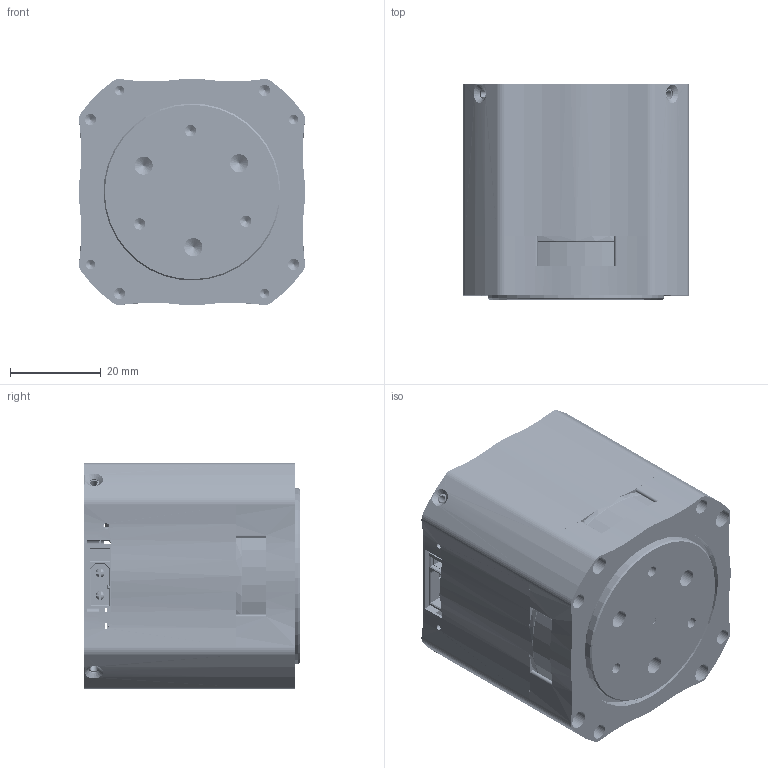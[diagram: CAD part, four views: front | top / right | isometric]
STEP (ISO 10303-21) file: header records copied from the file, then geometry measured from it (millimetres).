
FILE_DESCRIPTION (( 'STEP AP214' ), '1' );
FILE_NAME ('5047潠眢耀倰.STEP', '2025-04-08T09:38:22', ( '' ), ( '' ), 'SwSTEP 2.0', 'SolidWorks 2024', '' );
FILE_SCHEMA (( 'AUTOMOTIVE_DESIGN' ));
Length unit declared in the file: millimetre
Products named in the file (10): 3D_双编-5047（功率升级48）_V1.5.0918_2024-09-181.8; 5047-35-44-5橡胶密封型-6707 2rs1.8; 5047-0.3模二级1.8; 内齿5048A1.8; 5047电机盖11041.8; 5047-轴承座09101.8; 5047外壳02181.8; 5047-输出盘12301.8; 5047编码器销1.8; 5047简易模型
Assembly tree (9 placements, depth 3):
  5047简易模型
    5047外壳02181.8
    5047电机盖11041.8
    3D_双编-5047（功率升级48）_V1.5.0918_2024-09-181.8
    5047-0.3模二级1.8
      5047-轴承座09101.8
      内齿5048A1.8
      5047-35-44-5橡胶密封型-6707 2rs1.8
      5047-输出盘12301.8
    5047编码器销1.8
Bounding box: 49.9 x 47.4 x 49.9 mm (x, y, z)
Volume: 47238.5 mm3; surface area: 50209.5 mm2
Topology: 118 solids, 118 shells, 18555 faces, 49148 edges, 31556 vertices
Faces by surface type: plane 9796, bspline 5125, cylinder 2713, sphere 494, torus 294, cone 133
Entity records: 639130 total; most frequent: CARTESIAN_POINT 214548, ORIENTED_EDGE 97454, DIRECTION 69784, EDGE_CURVE 48727, VERTEX_POINT 31532, VECTOR 31200, LINE 31200, EDGE_LOOP 19789
